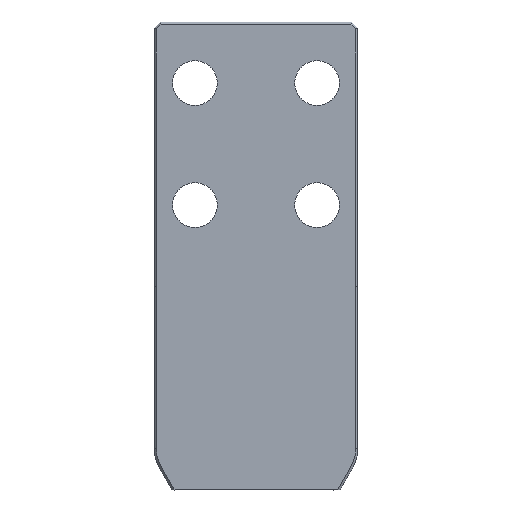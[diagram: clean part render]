
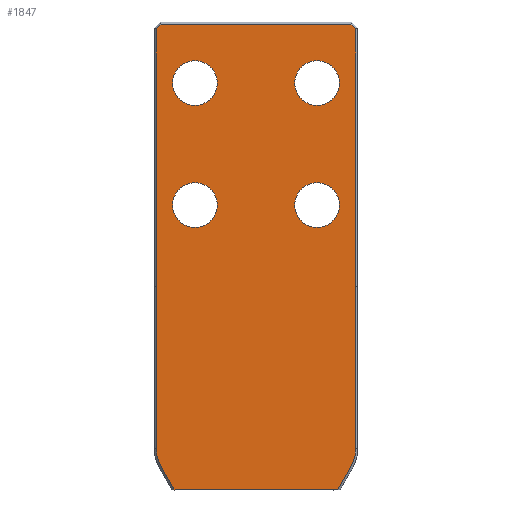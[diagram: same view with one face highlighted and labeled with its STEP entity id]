
A CAD part, front view. The second image highlights one B-rep face of the part: STEP entity #1847.
In plain terms, the highlighted planar face has unit normal (0, -1, 0).
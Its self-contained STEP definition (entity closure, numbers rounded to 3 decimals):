
#126=VERTEX_POINT(' ',#127);
#127=CARTESIAN_POINT('',(30.,-45.,-101.));
#128=VERTEX_POINT(' ',#129);
#129=CARTESIAN_POINT('',(30.,-45.,-79.));
#134=VERTEX_POINT(' ',#135);
#135=CARTESIAN_POINT('',(-30.,-45.,-41.));
#136=VERTEX_POINT(' ',#137);
#137=CARTESIAN_POINT('',(-30.,-45.,-19.));
#142=VERTEX_POINT(' ',#143);
#143=CARTESIAN_POINT('',(30.,-45.,-41.));
#144=VERTEX_POINT(' ',#145);
#145=CARTESIAN_POINT('',(30.,-45.,-19.));
#150=VERTEX_POINT(' ',#151);
#151=CARTESIAN_POINT('',(-30.,-45.,-101.));
#152=VERTEX_POINT(' ',#153);
#153=CARTESIAN_POINT('',(-30.,-45.,-79.));
#236=VERTEX_POINT(' ',#237);
#237=CARTESIAN_POINT('',(40.185,-45.,-230.));
#238=VERTEX_POINT(' ',#239);
#239=CARTESIAN_POINT('',(46.454,-45.,-219.141));
#240=VERTEX_POINT(' ',#241);
#241=CARTESIAN_POINT('',(49.,-45.,-209.641));
#242=VERTEX_POINT(' ',#243);
#243=CARTESIAN_POINT('',(49.,-45.,-130.));
#244=VERTEX_POINT(' ',#245);
#245=CARTESIAN_POINT('',(49.,-45.,-3.414));
#248=VERTEX_POINT(' ',#249);
#249=CARTESIAN_POINT('',(46.586,-45.,-1.));
#252=VERTEX_POINT(' ',#253);
#253=CARTESIAN_POINT('',(-46.586,-45.,-1.));
#256=VERTEX_POINT(' ',#257);
#257=CARTESIAN_POINT('',(-49.,-45.,-3.414));
#266=VERTEX_POINT(' ',#267);
#267=CARTESIAN_POINT('',(-40.185,-45.,-230.));
#268=VERTEX_POINT(' ',#269);
#269=CARTESIAN_POINT('',(-49.,-45.,-130.));
#270=VERTEX_POINT(' ',#271);
#271=CARTESIAN_POINT('',(-49.,-45.,-209.641));
#272=VERTEX_POINT(' ',#273);
#273=CARTESIAN_POINT('',(-46.454,-45.,-219.141));
#274=CIRCLE('',#275,11.);
#275=AXIS2_PLACEMENT_3D('',#276,#277,#278);
#276=CARTESIAN_POINT('',(30.,-45.,-90.));
#277=DIRECTION('',(0.,-1.,0.));
#278=DIRECTION('',(-1.,0.,0.));
#279=EDGE_CURVE(' ',#126,#128,#274,.T.);
#296=CIRCLE('',#297,11.);
#297=AXIS2_PLACEMENT_3D('',#298,#299,#300);
#298=CARTESIAN_POINT('',(30.,-45.,-90.));
#299=DIRECTION('',(0.,-1.,0.));
#300=DIRECTION('',(1.,0.,0.));
#301=EDGE_CURVE(' ',#128,#126,#296,.T.);
#308=CIRCLE('',#309,11.);
#309=AXIS2_PLACEMENT_3D('',#310,#311,#312);
#310=CARTESIAN_POINT('',(-30.,-45.,-30.));
#311=DIRECTION('',(0.,-1.,0.));
#312=DIRECTION('',(-1.,0.,0.));
#313=EDGE_CURVE(' ',#134,#136,#308,.T.);
#330=CIRCLE('',#331,11.);
#331=AXIS2_PLACEMENT_3D('',#332,#333,#334);
#332=CARTESIAN_POINT('',(-30.,-45.,-30.));
#333=DIRECTION('',(0.,-1.,0.));
#334=DIRECTION('',(1.,0.,0.));
#335=EDGE_CURVE(' ',#136,#134,#330,.T.);
#342=CIRCLE('',#343,11.);
#343=AXIS2_PLACEMENT_3D('',#344,#345,#346);
#344=CARTESIAN_POINT('',(30.,-45.,-30.));
#345=DIRECTION('',(0.,1.,0.));
#346=DIRECTION('',(-1.,0.,0.));
#347=EDGE_CURVE(' ',#142,#144,#342,.F.);
#364=CIRCLE('',#365,11.);
#365=AXIS2_PLACEMENT_3D('',#366,#367,#368);
#366=CARTESIAN_POINT('',(30.,-45.,-30.));
#367=DIRECTION('',(0.,1.,0.));
#368=DIRECTION('',(1.,0.,0.));
#369=EDGE_CURVE(' ',#144,#142,#364,.F.);
#376=CIRCLE('',#377,11.);
#377=AXIS2_PLACEMENT_3D('',#378,#379,#380);
#378=CARTESIAN_POINT('',(-30.,-45.,-90.));
#379=DIRECTION('',(0.,1.,0.));
#380=DIRECTION('',(-1.,0.,0.));
#381=EDGE_CURVE(' ',#150,#152,#376,.F.);
#398=CIRCLE('',#399,11.);
#399=AXIS2_PLACEMENT_3D('',#400,#401,#402);
#400=CARTESIAN_POINT('',(-30.,-45.,-90.));
#401=DIRECTION('',(0.,1.,0.));
#402=DIRECTION('',(1.,0.,0.));
#403=EDGE_CURVE(' ',#152,#150,#398,.F.);
#795=LINE('',#796,#797);
#796=CARTESIAN_POINT('',(46.454,-45.,-219.141));
#797=VECTOR('',#798,1.);
#798=DIRECTION('',(-0.5,0.,-0.866));
#799=EDGE_CURVE(' ',#238,#236,#795,.T.);
#805=CIRCLE('',#806,19.);
#806=AXIS2_PLACEMENT_3D('',#807,#808,#809);
#807=CARTESIAN_POINT('',(30.,-45.,-209.641));
#808=DIRECTION('',(0.,1.,0.));
#809=DIRECTION('',(-0.966,0.,0.259));
#810=EDGE_CURVE(' ',#240,#238,#805,.T.);
#816=LINE('',#817,#818);
#817=CARTESIAN_POINT('',(49.,-45.,-130.));
#818=VECTOR('',#819,1.);
#819=DIRECTION('',(0.,0.,-1.));
#820=EDGE_CURVE(' ',#242,#240,#816,.T.);
#826=LINE('',#827,#828);
#827=CARTESIAN_POINT('',(49.,-45.,2.657));
#828=VECTOR('',#829,1.);
#829=DIRECTION('',(0.,0.,-1.));
#830=EDGE_CURVE(' ',#244,#242,#826,.T.);
#846=LINE('',#847,#848);
#847=CARTESIAN_POINT('',(42.293,-45.,3.293));
#848=VECTOR('',#849,1.);
#849=DIRECTION('',(0.707,0.,-0.707));
#850=EDGE_CURVE(' ',#248,#244,#846,.T.);
#866=LINE('',#867,#868);
#867=CARTESIAN_POINT('',(-52.657,-45.,-1.));
#868=VECTOR('',#869,1.);
#869=DIRECTION('',(1.,0.,0.));
#870=EDGE_CURVE(' ',#252,#248,#866,.T.);
#886=LINE('',#887,#888);
#887=CARTESIAN_POINT('',(-53.293,-45.,-7.707));
#888=VECTOR('',#889,1.);
#889=DIRECTION('',(0.707,0.,0.707));
#890=EDGE_CURVE(' ',#256,#252,#886,.T.);
#937=LINE('',#938,#939);
#938=CARTESIAN_POINT('',(-50.12,-45.,-230.));
#939=VECTOR('',#940,1.);
#940=DIRECTION('',(1.,0.,0.));
#941=EDGE_CURVE(' ',#236,#266,#937,.F.);
#942=LINE('',#943,#944);
#943=CARTESIAN_POINT('',(-49.,-45.,-130.));
#944=VECTOR('',#945,1.);
#945=DIRECTION('',(0.,0.,1.));
#946=EDGE_CURVE(' ',#268,#256,#942,.T.);
#947=LINE('',#948,#949);
#948=CARTESIAN_POINT('',(-49.,-45.,-209.641));
#949=VECTOR('',#950,1.);
#950=DIRECTION('',(0.,0.,1.));
#951=EDGE_CURVE(' ',#270,#268,#947,.T.);
#952=CIRCLE('',#953,19.);
#953=AXIS2_PLACEMENT_3D('',#954,#955,#956);
#954=CARTESIAN_POINT('',(-30.,-45.,-209.641));
#955=DIRECTION('',(0.,1.,0.));
#956=DIRECTION('',(0.966,0.,0.259));
#957=EDGE_CURVE(' ',#272,#270,#952,.T.);
#958=LINE('',#959,#960);
#959=CARTESIAN_POINT('',(-37.645,-45.,-234.399));
#960=VECTOR('',#961,1.);
#961=DIRECTION('',(-0.5,0.,0.866));
#962=EDGE_CURVE(' ',#266,#272,#958,.T.);
#1812=ORIENTED_EDGE('',*,*,#946,.F.);
#1813=ORIENTED_EDGE('',*,*,#951,.F.);
#1814=ORIENTED_EDGE('',*,*,#957,.F.);
#1815=ORIENTED_EDGE('',*,*,#962,.F.);
#1816=ORIENTED_EDGE('',*,*,#941,.F.);
#1817=ORIENTED_EDGE('',*,*,#799,.F.);
#1818=ORIENTED_EDGE('',*,*,#810,.F.);
#1819=ORIENTED_EDGE('',*,*,#820,.F.);
#1820=ORIENTED_EDGE('',*,*,#830,.F.);
#1821=ORIENTED_EDGE('',*,*,#850,.F.);
#1822=ORIENTED_EDGE('',*,*,#870,.F.);
#1823=ORIENTED_EDGE('',*,*,#890,.F.);
#1824=EDGE_LOOP('',(#1812,#1813,#1814,#1815,#1816,#1817,#1818,#1819,#1820,#1821,#1822,#1823));
#1825=FACE_OUTER_BOUND('',#1824,.T.);
#1826=ORIENTED_EDGE('',*,*,#403,.F.);
#1827=ORIENTED_EDGE('',*,*,#381,.F.);
#1828=EDGE_LOOP('',(#1826,#1827));
#1829=FACE_BOUND('',#1828,.T.);
#1830=ORIENTED_EDGE('',*,*,#369,.F.);
#1831=ORIENTED_EDGE('',*,*,#347,.F.);
#1832=EDGE_LOOP('',(#1830,#1831));
#1833=FACE_BOUND('',#1832,.T.);
#1834=ORIENTED_EDGE('',*,*,#335,.F.);
#1835=ORIENTED_EDGE('',*,*,#313,.F.);
#1836=EDGE_LOOP('',(#1834,#1835));
#1837=FACE_BOUND('',#1836,.T.);
#1838=ORIENTED_EDGE('',*,*,#301,.F.);
#1839=ORIENTED_EDGE('',*,*,#279,.F.);
#1840=EDGE_LOOP('',(#1838,#1839));
#1841=FACE_BOUND('',#1840,.T.);
#1842=PLANE('',#1843);
#1843=AXIS2_PLACEMENT_3D('',#1844,#1845,#1846);
#1844=CARTESIAN_POINT('',(0.,-45.,0.));
#1845=DIRECTION('',(0.,-1.,0.));
#1846=DIRECTION('',(0.,0.,-1.));
#1847=ADVANCED_FACE('',(#1825,#1829,#1833,#1837,#1841),#1842,.T.);
